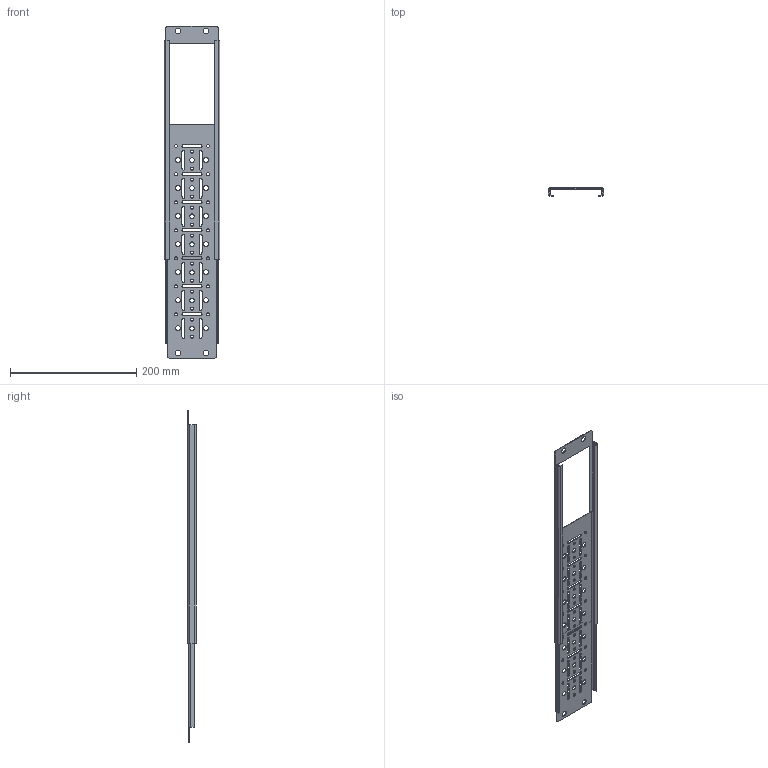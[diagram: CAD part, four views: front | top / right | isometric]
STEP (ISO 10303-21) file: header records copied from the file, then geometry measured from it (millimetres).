
FILE_DESCRIPTION((''),'2;1');
FILE_NAME('ALBFR-1626-T_ASM','2014-08-22T',('RRenderos'),('Middle Atlantic Products'),'PRO/ENGINEER BY PARAMETRIC TECHNOLOGY CORPORATION, 2013330','PRO/ENGINEER BY PARAMETRIC TECHNOLOGY CORPORATION, 2013330','');
FILE_SCHEMA(('CONFIG_CONTROL_DESIGN'));
Length unit declared in the file: inch
Products named in the file (3): PLBFRT1; PLBFRT2; ALBFR-1626-T_ASM
Assembly tree (2 placements, depth 2):
  ALBFR-1626-T_ASM
    PLBFRT1
    PLBFRT2
Bounding box: 88.09 x 12.7 x 526.26 mm (x, y, z)
Volume: 60590.5 mm3; surface area: 107705.7 mm2
Topology: 2 solids, 2 shells, 266 faces, 738 edges, 476 vertices
Faces by surface type: cylinder 168, plane 98
Entity records: 8988 total; most frequent: DIRECTION 1616, CARTESIAN_POINT 1485, ORIENTED_EDGE 1476, EDGE_CURVE 738, AXIS2_PLACEMENT_3D 607, VERTEX_POINT 476, EDGE_LOOP 416, VECTOR 402
